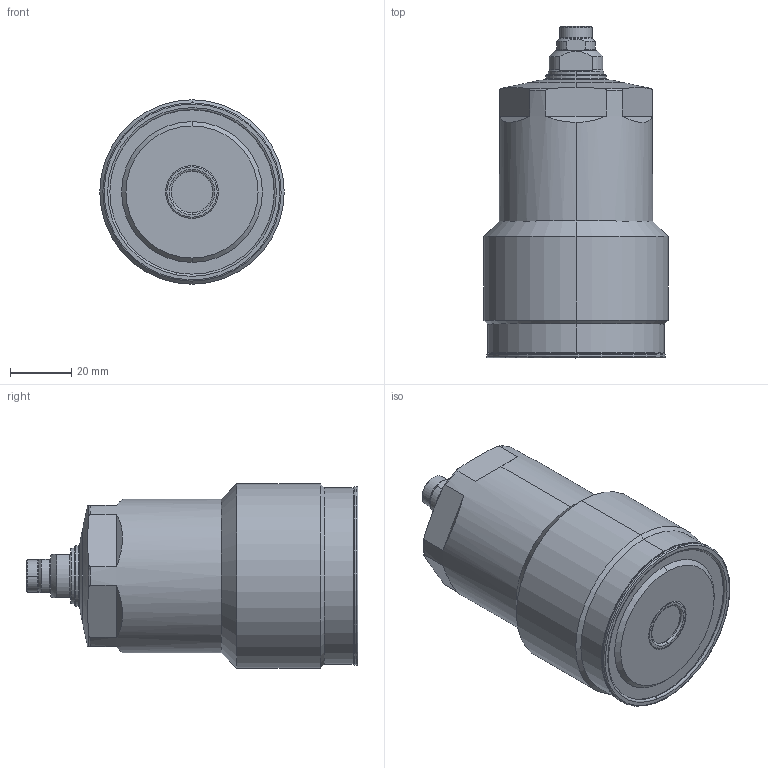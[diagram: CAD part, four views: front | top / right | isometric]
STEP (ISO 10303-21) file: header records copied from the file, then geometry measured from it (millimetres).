
FILE_DESCRIPTION(/* description */ (''),/* implementation_level */ '2;1');
FILE_NAME(/* name */ 'TNL60-M.stp',/* time_stamp */ '2026-02-04T14:23:34+08:00',/* author */ (''),/* organization */ (''),/* preprocessor_version */ 'ST-DEVELOPER v16.7',/* originating_system */ 'SIEMENS PLM Software NX 12.0',/* authorisation */ '');
FILE_SCHEMA (('AUTOMOTIVE_DESIGN { 1 0 10303 214 3 1 1 1 }'));
Length unit declared in the file: millimetre
Products named in the file (9): XLC-M10_Oring; XLC-M10SP_pin; XLC-M10SP_contactbolt; XLC-M10SP_pad; TNL60-04; TNL60-02; TNL60-01; TNL60-03; WNC6003-xM_step
Assembly tree (8 placements, depth 3):
  WNC6003-xM_step
    TNL60-01
    TNL60-02
    TNL60-03
      XLC-M10SP_pad
      XLC-M10SP_contactbolt
      XLC-M10SP_pin
      XLC-M10_Oring
    TNL60-04
Bounding box: 60 x 108 x 60 mm (x, y, z)
Volume: 208205 mm3; surface area: 24903.3 mm2
Topology: 7 solids, 7 shells, 196 faces, 436 edges, 266 vertices
Faces by surface type: cylinder 56, torus 52, plane 44, cone 38, sphere 6
Entity records: 6248 total; most frequent: CARTESIAN_POINT 1573, DIRECTION 1042, ORIENTED_EDGE 872, AXIS2_PLACEMENT_3D 459, EDGE_CURVE 436, VERTEX_POINT 266, CIRCLE 254, EDGE_LOOP 222
